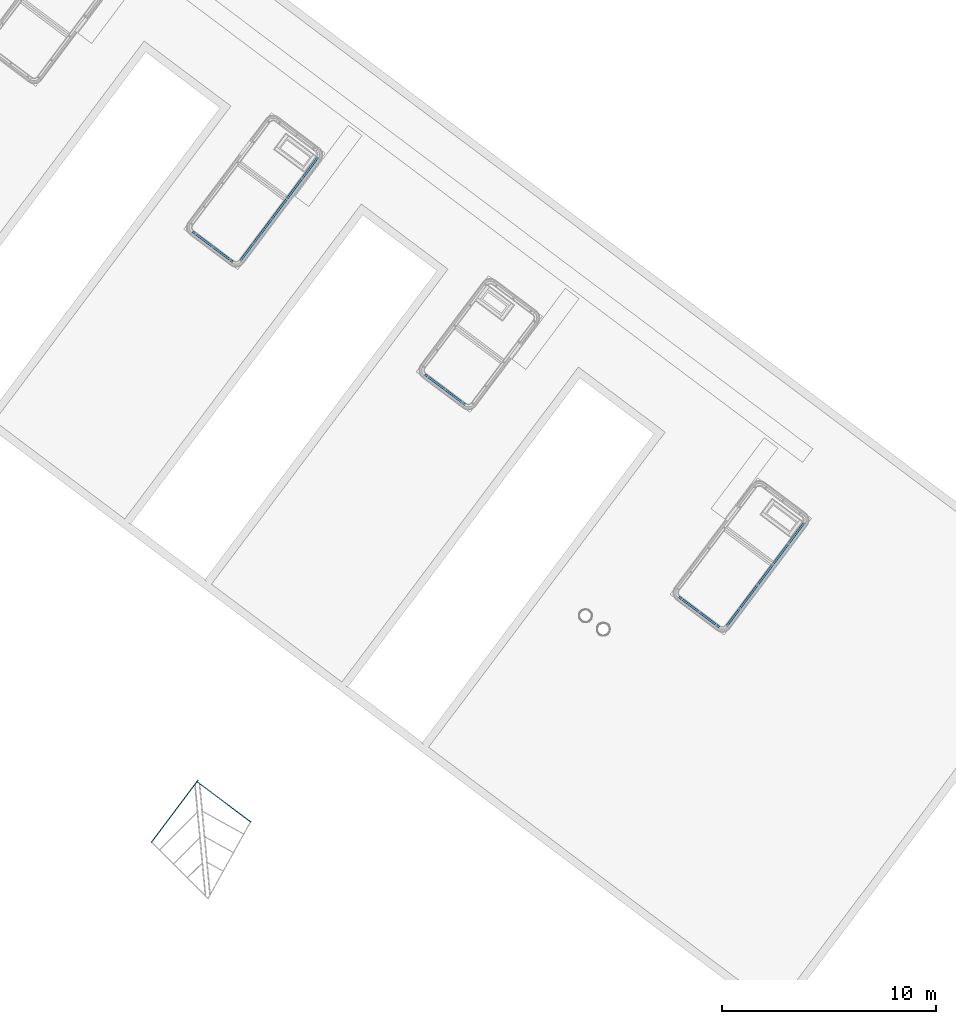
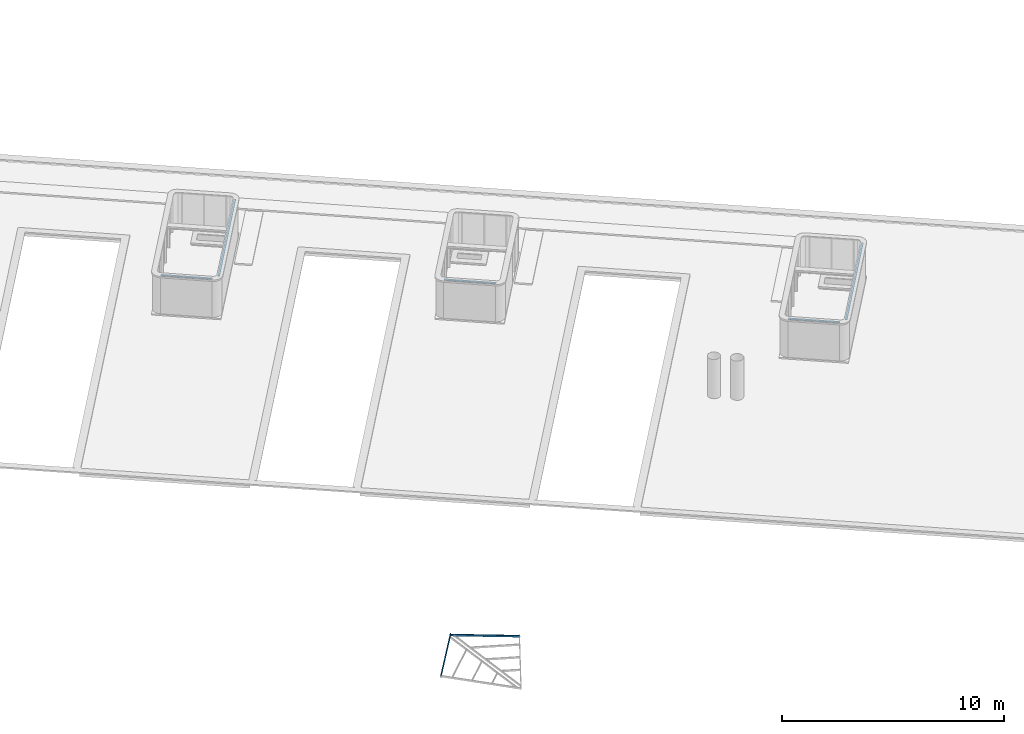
# One storey, part 14 of 28: 7 beams.
"""IFC2X3 building model written with IfcOpenShell, lengths in metres."""

from ifc_helpers import new_model, entity, si_unit, converted_unit, derived_unit, direction, frame, frame_2d, origin, place, context, subcontext, project, spatial, polyline, circle_curve, parameter, trimmed, segment, composite_curve, outline, extrude, material, type_object, element, save


model = new_model("IFC2X3")

# Units and contexts
model_context = context("Model", 3, precision=1e-05, world=origin(), true_north=direction((6.123031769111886e-17, 1.0)))
body_context = subcontext(model_context, "Body", "Model", "MODEL_VIEW")
ifc_project = project(units=[si_unit("LENGTHUNIT", "METRE"), si_unit("AREAUNIT", "SQUARE_METRE"), si_unit("VOLUMEUNIT", "CUBIC_METRE"), converted_unit("PLANEANGLEUNIT", "DEGREE", entity("IfcRatioMeasure", 0.017453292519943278), si_unit("PLANEANGLEUNIT", "RADIAN"), dimensions=[0, 0, 0, 0, 0, 0, 0]), si_unit("MASSUNIT", "GRAM", prefix="KILO"), derived_unit("MASSDENSITYUNIT", [(si_unit("MASSUNIT", "GRAM", prefix="KILO"), 1), (si_unit("LENGTHUNIT", "METRE"), -3)]), derived_unit("IONCONCENTRATIONUNIT", [(si_unit("MASSUNIT", "GRAM", prefix="KILO"), 1), (si_unit("LENGTHUNIT", "METRE"), -3)]), derived_unit("MOMENTOFINERTIAUNIT", [(si_unit("LENGTHUNIT", "METRE"), 4)]), si_unit("TIMEUNIT", "SECOND"), si_unit("FREQUENCYUNIT", "HERTZ"), si_unit("THERMODYNAMICTEMPERATUREUNIT", "DEGREE_CELSIUS"), derived_unit("THERMALTRANSMITTANCEUNIT", [(si_unit("MASSUNIT", "GRAM", prefix="KILO"), 1), (si_unit("THERMODYNAMICTEMPERATUREUNIT", "KELVIN"), -1), (si_unit("TIMEUNIT", "SECOND"), -3)]), derived_unit("THERMALCONDUCTANCEUNIT", [(si_unit("MASSUNIT", "GRAM", prefix="KILO"), 1), (si_unit("THERMODYNAMICTEMPERATUREUNIT", "KELVIN"), -1), (si_unit("TIMEUNIT", "SECOND"), -3), (si_unit("LENGTHUNIT", "METRE"), 1)]), derived_unit("VOLUMETRICFLOWRATEUNIT", [(si_unit("LENGTHUNIT", "METRE"), 3), (si_unit("TIMEUNIT", "SECOND"), -1)]), derived_unit("MASSFLOWRATEUNIT", [(si_unit("MASSUNIT", "GRAM", prefix="KILO"), 1), (si_unit("TIMEUNIT", "SECOND"), -1)]), derived_unit("ROTATIONALFREQUENCYUNIT", [(si_unit("TIMEUNIT", "SECOND"), -1)]), si_unit("ELECTRICCURRENTUNIT", "AMPERE"), si_unit("ELECTRICVOLTAGEUNIT", "VOLT"), si_unit("POWERUNIT", "WATT"), si_unit("FORCEUNIT", "NEWTON", prefix="KILO"), si_unit("ILLUMINANCEUNIT", "LUX"), si_unit("LUMINOUSFLUXUNIT", "LUMEN"), si_unit("LUMINOUSINTENSITYUNIT", "CANDELA"), derived_unit("USERDEFINED", [(si_unit("MASSUNIT", "GRAM", prefix="KILO"), -1), (si_unit("LENGTHUNIT", "METRE"), -2), (si_unit("TIMEUNIT", "SECOND"), 3), (si_unit("LUMINOUSFLUXUNIT", "LUMEN"), 1)]), derived_unit("USERDEFINED", [(si_unit("MASSUNIT", "GRAM", prefix="KILO"), 1), (si_unit("TIMEUNIT", "SECOND"), -3), (si_unit("LENGTHUNIT", "METRE"), 3), (si_unit("ELECTRICCURRENTUNIT", "AMPERE"), -2)]), derived_unit("SOUNDPOWERUNIT", [(si_unit("MASSUNIT", "GRAM", prefix="KILO"), 1), (si_unit("TIMEUNIT", "SECOND"), -3), (si_unit("LENGTHUNIT", "METRE"), 2)]), derived_unit("SOUNDPRESSUREUNIT", [(si_unit("MASSUNIT", "GRAM", prefix="KILO"), 1), (si_unit("LENGTHUNIT", "METRE"), -1), (si_unit("TIMEUNIT", "SECOND"), -2)]), derived_unit("LINEARVELOCITYUNIT", [(si_unit("LENGTHUNIT", "METRE"), 1), (si_unit("TIMEUNIT", "SECOND"), -1)]), si_unit("PRESSUREUNIT", "PASCAL"), derived_unit("USERDEFINED", [(si_unit("MASSUNIT", "GRAM", prefix="KILO"), 1), (si_unit("LENGTHUNIT", "METRE"), -2), (si_unit("TIMEUNIT", "SECOND"), -2)]), derived_unit("LINEARFORCEUNIT", [(si_unit("MASSUNIT", "GRAM", prefix="KILO"), 1), (si_unit("TIMEUNIT", "SECOND"), -2)]), derived_unit("PLANARFORCEUNIT", [(si_unit("MASSUNIT", "GRAM", prefix="KILO"), 1), (si_unit("LENGTHUNIT", "METRE"), -1), (si_unit("TIMEUNIT", "SECOND"), -2)]), derived_unit("SPECIFICHEATCAPACITYUNIT", [(si_unit("THERMODYNAMICTEMPERATUREUNIT", "KELVIN"), -1), (si_unit("LENGTHUNIT", "METRE"), 2), (si_unit("TIMEUNIT", "SECOND"), -2)]), derived_unit("HEATINGVALUEUNIT", [(si_unit("LENGTHUNIT", "METRE"), 2), (si_unit("TIMEUNIT", "SECOND"), -2)]), derived_unit("VAPORPERMEABILITYUNIT", [(si_unit("LENGTHUNIT", "METRE"), -1), (si_unit("TIMEUNIT", "SECOND"), 1)]), derived_unit("DYNAMICVISCOSITYUNIT", [(si_unit("MASSUNIT", "GRAM", prefix="KILO"), 1), (si_unit("TIMEUNIT", "SECOND"), -1), (si_unit("LENGTHUNIT", "METRE"), -1)]), derived_unit("THERMALEXPANSIONCOEFFICIENTUNIT", [(si_unit("THERMODYNAMICTEMPERATUREUNIT", "KELVIN"), -1)]), derived_unit("MODULUSOFELASTICITYUNIT", [(si_unit("MASSUNIT", "GRAM", prefix="KILO"), 1), (si_unit("LENGTHUNIT", "METRE"), -1), (si_unit("TIMEUNIT", "SECOND"), -2)]), derived_unit("ISOTHERMALMOISTURECAPACITYUNIT", [(si_unit("LENGTHUNIT", "METRE"), 3), (si_unit("MASSUNIT", "GRAM", prefix="KILO"), -1)]), derived_unit("MOISTUREDIFFUSIVITYUNIT", [(si_unit("TIMEUNIT", "SECOND"), -1), (si_unit("LENGTHUNIT", "METRE"), 2)])], contexts=[model_context])

# Site, building, storey
site_placement = place(None, frame((0.0, 0.0, 235.0), z_axis=(0.0, 0.0, 1.0), x_axis=(-0.7996477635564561, 0.6004693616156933, 0.0)))
site = spatial("IfcSite", under=ifc_project, at=site_placement, Name="Default", CompositionType="ELEMENT")
building_placement = place(site_placement, origin())
building = spatial("IfcBuilding", under=site, at=building_placement, CompositionType="ELEMENT")
storey_placement = place(building_placement, frame((0.0, 0.0, 3.400000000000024)))
storey = spatial("IfcBuildingStorey", under=building, at=storey_placement, Name="PC- Coberta STR", CompositionType="ELEMENT", Elevation=3.400000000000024)

# Beams
ifc_material = material(Name="Metal - Acero - 345 MPa")
beam_type = type_object("IfcBeamType", Name="STR- V- Acer- RHS- Rectangular- T1:100x50RHS", PredefinedType="NOTDEFINED")
beam_1_placement = place(storey_placement, frame((15.80845081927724, -37.30919173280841, 2.398404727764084), z_axis=(0.0, 0.0, 1.0), x_axis=(0.0, 1.0, 0.0)))
element("IfcBeam", 1, at=beam_1_placement, inside=storey, type_object=beam_type, material=ifc_material, Name="STR- V- Acer- RHS- Rectangular- T1:100x50RHS", ObjectType="STR- V- Acer- RHS- Rectangular- T1:100x50RHS", context=body_context, shape_type="SweptSolid", body=[
    extrude(outline(composite_curve([segment(polyline([(-0.04400000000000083, -0.02499999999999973), (0.043999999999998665, -0.02499999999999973)]), True, "CONTINUOUS"), segment(trimmed(circle_curve(frame_2d((0.043999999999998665, -0.01900000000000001), x_axis=(0.0, 1.0)), 0.006), [parameter(179.99999999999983)], [parameter(269.9999999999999)], True, "PARAMETER"), True, "CONTINUOUS"), segment(polyline([(0.04999999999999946, -0.01900000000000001), (0.04999999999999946, 0.019000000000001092)]), True, "CONTINUOUS"), segment(trimmed(circle_curve(frame_2d((0.043999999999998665, 0.01900000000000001), x_axis=(0.0, 1.0)), 0.006), [parameter(270.0000000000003)], [parameter(4.0711099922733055e-13)], True, "PARAMETER"), True, "CONTINUOUS"), segment(polyline([(0.043999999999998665, 0.025000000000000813), (-0.04400000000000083, 0.025000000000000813)]), True, "CONTINUOUS"), segment(trimmed(circle_curve(frame_2d((-0.04400000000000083, 0.01900000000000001), x_axis=(0.0, 1.0)), 0.006), [parameter(359.9999999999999)], [parameter(90.00000000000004)], True, "PARAMETER"), True, "CONTINUOUS"), segment(polyline([(-0.05000000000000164, 0.019000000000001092), (-0.05000000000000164, -0.018999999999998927)]), True, "CONTINUOUS"), segment(trimmed(circle_curve(frame_2d((-0.04400000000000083, -0.01900000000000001), x_axis=(0.0, 1.0)), 0.006), [parameter(90.00000000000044)], [parameter(179.9999999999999)], True, "PARAMETER"), True, "CONTINUOUS")], self_intersect=False), holes=[composite_curve([segment(trimmed(circle_curve(frame_2d((-0.04400000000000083, 0.01900000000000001), x_axis=(0.0, 1.0)), 0.003), [parameter(359.9999999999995)], [parameter(89.99999999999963)], True, "PARAMETER"), False, "CONTINUOUS"), segment(polyline([(-0.04400000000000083, 0.022000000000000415), (0.043999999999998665, 0.022000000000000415)]), True, "CONTINUOUS"), segment(trimmed(circle_curve(frame_2d((0.043999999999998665, 0.01900000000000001), x_axis=(0.0, 1.0)), 0.003), [parameter(269.9999999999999)], [parameter(0.0)], True, "PARAMETER"), False, "CONTINUOUS"), segment(polyline([(0.04699999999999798, 0.01900000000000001), (0.04699999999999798, -0.018999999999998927)]), True, "CONTINUOUS"), segment(trimmed(circle_curve(frame_2d((0.043999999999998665, -0.018999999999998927), x_axis=(0.0, 1.0)), 0.003), [parameter(179.9999999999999)], [parameter(269.99999999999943)], True, "PARAMETER"), False, "CONTINUOUS"), segment(polyline([(0.043999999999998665, -0.02199999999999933), (-0.04400000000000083, -0.02199999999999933)]), True, "CONTINUOUS"), segment(trimmed(circle_curve(frame_2d((-0.04400000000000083, -0.018999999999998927), x_axis=(0.0, 1.0)), 0.003), [parameter(90.00000000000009)], [parameter(180.00000000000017)], True, "PARAMETER"), False, "CONTINUOUS"), segment(polyline([(-0.04700000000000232, -0.018999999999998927), (-0.04700000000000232, 0.019000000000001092)]), True, "CONTINUOUS")], self_intersect=False)]), frame((0.0, -0.05159527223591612, 0.02659527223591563), z_axis=(1.0, 0.0, 0.0), x_axis=(0.0, 1.0, 0.0)), (0.0, 0.0, 1.0), 6.036931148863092),
])
beam_2_placement = place(storey_placement, frame((16.11005592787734, -31.08085588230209, 2.4515952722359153), z_axis=(0.0, 0.0, 1.0), x_axis=(-1.0, 0.0, 0.0)))
element("IfcBeam", 2, at=beam_2_placement, inside=storey, type_object=beam_type, material=ifc_material, Name="STR- V- Acer- RHS- Rectangular- T1:100x50RHS", ObjectType="STR- V- Acer- RHS- Rectangular- T1:100x50RHS", context=body_context, shape_type="SweptSolid", body=[
    extrude(outline(composite_curve([segment(polyline([(-0.04400000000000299, -0.02499999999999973), (0.04399999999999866, -0.02499999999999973)]), True, "CONTINUOUS"), segment(trimmed(circle_curve(frame_2d((0.04399999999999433, -0.01900000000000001), x_axis=(0.0, 1.0)), 0.006), [parameter(179.99999999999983)], [parameter(269.9999999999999)], True, "PARAMETER"), True, "CONTINUOUS"), segment(polyline([(0.0499999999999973, -0.01900000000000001), (0.0499999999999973, 0.019000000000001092)]), True, "CONTINUOUS"), segment(trimmed(circle_curve(frame_2d((0.04399999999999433, 0.01900000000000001), x_axis=(0.0, 1.0)), 0.006), [parameter(270.0000000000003)], [parameter(4.0711099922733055e-13)], True, "PARAMETER"), True, "CONTINUOUS"), segment(polyline([(0.04399999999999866, 0.025000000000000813), (-0.04400000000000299, 0.025000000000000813)]), True, "CONTINUOUS"), segment(trimmed(circle_curve(frame_2d((-0.04400000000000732, 0.01900000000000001), x_axis=(0.0, 1.0)), 0.006), [parameter(359.9999999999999)], [parameter(90.00000000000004)], True, "PARAMETER"), True, "CONTINUOUS"), segment(polyline([(-0.05000000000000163, 0.019000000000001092), (-0.05000000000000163, -0.018999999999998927)]), True, "CONTINUOUS"), segment(trimmed(circle_curve(frame_2d((-0.04400000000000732, -0.01900000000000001), x_axis=(0.0, 1.0)), 0.006), [parameter(90.00000000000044)], [parameter(179.9999999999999)], True, "PARAMETER"), True, "CONTINUOUS")], self_intersect=False), holes=[composite_curve([segment(trimmed(circle_curve(frame_2d((-0.04400000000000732, 0.01900000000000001), x_axis=(0.0, 1.0)), 0.003), [parameter(359.9999999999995)], [parameter(89.99999999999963)], True, "PARAMETER"), False, "CONTINUOUS"), segment(polyline([(-0.04400000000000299, 0.02200000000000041), (0.04399999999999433, 0.02200000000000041)]), True, "CONTINUOUS"), segment(trimmed(circle_curve(frame_2d((0.04399999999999, 0.01900000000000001), x_axis=(0.0, 1.0)), 0.003), [parameter(269.9999999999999)], [parameter(0.0)], True, "PARAMETER"), False, "CONTINUOUS"), segment(polyline([(0.04699999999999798, 0.01900000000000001), (0.04699999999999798, -0.018999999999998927)]), True, "CONTINUOUS"), segment(trimmed(circle_curve(frame_2d((0.04399999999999, -0.018999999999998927), x_axis=(0.0, 1.0)), 0.003), [parameter(179.9999999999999)], [parameter(269.99999999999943)], True, "PARAMETER"), False, "CONTINUOUS"), segment(polyline([(0.04399999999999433, -0.021999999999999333), (-0.04400000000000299, -0.021999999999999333)]), True, "CONTINUOUS"), segment(trimmed(circle_curve(frame_2d((-0.04400000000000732, -0.018999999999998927), x_axis=(0.0, 1.0)), 0.003), [parameter(90.00000000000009)], [parameter(180.00000000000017)], True, "PARAMETER"), False, "CONTINUOUS"), segment(polyline([(-0.04700000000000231, -0.018999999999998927), (-0.04700000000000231, 0.019000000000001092)]), True, "CONTINUOUS")], self_intersect=False)]), frame((-2.349886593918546, -0.051595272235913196, -0.026595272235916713), z_axis=(1.0, 0.0, 0.0), x_axis=(0.0, 1.0, 0.0)), (0.0, 0.0, 1.0), 2.3498865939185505),
])
beam_3_placement = place(storey_placement, frame((31.843204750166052, -32.266787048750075, 2.4515952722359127), z_axis=(0.0, 0.0, 1.0), x_axis=(-1.0, 0.0, 0.0)))
element("IfcBeam", 3, at=beam_3_placement, inside=storey, type_object=beam_type, material=ifc_material, Name="STR- V- Acer- RHS- Rectangular- T1:100x50RHS", ObjectType="STR- V- Acer- RHS- Rectangular- T1:100x50RHS", context=body_context, shape_type="SweptSolid", body=[
    extrude(outline(composite_curve([segment(polyline([(-0.04399999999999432, -0.025000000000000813), (0.044000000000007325, -0.025000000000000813)]), True, "CONTINUOUS"), segment(trimmed(circle_curve(frame_2d((0.044000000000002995, -0.019000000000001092), x_axis=(0.0, 1.0)), 0.006), [parameter(179.99999999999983)], [parameter(269.9999999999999)], True, "PARAMETER"), True, "CONTINUOUS"), segment(polyline([(0.05000000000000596, -0.019000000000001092), (0.05000000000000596, 0.01900000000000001)]), True, "CONTINUOUS"), segment(trimmed(circle_curve(frame_2d((0.044000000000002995, 0.018999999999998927), x_axis=(0.0, 1.0)), 0.006), [parameter(270.0000000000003)], [parameter(4.0711099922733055e-13)], True, "PARAMETER"), True, "CONTINUOUS"), segment(polyline([(0.044000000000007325, 0.02499999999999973), (-0.04399999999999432, 0.02499999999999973)]), True, "CONTINUOUS"), segment(trimmed(circle_curve(frame_2d((-0.04399999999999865, 0.018999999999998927), x_axis=(0.0, 1.0)), 0.006), [parameter(359.9999999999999)], [parameter(90.00000000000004)], True, "PARAMETER"), True, "CONTINUOUS"), segment(polyline([(-0.04999999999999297, 0.01900000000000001), (-0.04999999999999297, -0.01900000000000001)]), True, "CONTINUOUS"), segment(trimmed(circle_curve(frame_2d((-0.04399999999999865, -0.019000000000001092), x_axis=(0.0, 1.0)), 0.006), [parameter(90.00000000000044)], [parameter(179.9999999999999)], True, "PARAMETER"), True, "CONTINUOUS")], self_intersect=False), holes=[composite_curve([segment(trimmed(circle_curve(frame_2d((-0.04399999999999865, 0.018999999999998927), x_axis=(0.0, 1.0)), 0.003), [parameter(359.9999999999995)], [parameter(89.99999999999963)], True, "PARAMETER"), False, "CONTINUOUS"), segment(polyline([(-0.04399999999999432, 0.02199999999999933), (0.044000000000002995, 0.02199999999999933)]), True, "CONTINUOUS"), segment(trimmed(circle_curve(frame_2d((0.043999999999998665, 0.018999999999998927), x_axis=(0.0, 1.0)), 0.003), [parameter(269.9999999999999)], [parameter(0.0)], True, "PARAMETER"), False, "CONTINUOUS"), segment(polyline([(0.04700000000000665, 0.018999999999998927), (0.04700000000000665, -0.01900000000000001)]), True, "CONTINUOUS"), segment(trimmed(circle_curve(frame_2d((0.043999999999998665, -0.01900000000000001), x_axis=(0.0, 1.0)), 0.003), [parameter(179.9999999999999)], [parameter(269.99999999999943)], True, "PARAMETER"), False, "CONTINUOUS"), segment(polyline([(0.044000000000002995, -0.022000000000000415), (-0.04399999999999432, -0.022000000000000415)]), True, "CONTINUOUS"), segment(trimmed(circle_curve(frame_2d((-0.04399999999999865, -0.01900000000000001), x_axis=(0.0, 1.0)), 0.003), [parameter(90.00000000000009)], [parameter(180.00000000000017)], True, "PARAMETER"), False, "CONTINUOUS"), segment(polyline([(-0.046999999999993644, -0.01900000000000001), (-0.046999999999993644, 0.01900000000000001)]), True, "CONTINUOUS")], self_intersect=False)]), frame((-2.36688688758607, -0.05159527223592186, -0.02659527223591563), z_axis=(1.0, 0.0, 0.0), x_axis=(0.0, 1.0, 0.0)), (0.0, 0.0, 1.0), 2.366886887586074),
])
beam_4_placement = place(storey_placement, frame((44.25845081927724, -37.309191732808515, 2.398404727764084), z_axis=(0.0, 0.0, 1.0), x_axis=(0.0, 1.0, 0.0)))
element("IfcBeam", 4, at=beam_4_placement, inside=storey, type_object=beam_type, material=ifc_material, Name="STR- V- Acer- RHS- Rectangular- T1:100x50RHS", ObjectType="STR- V- Acer- RHS- Rectangular- T1:100x50RHS", context=body_context, shape_type="SweptSolid", body=[
    extrude(outline(composite_curve([segment(polyline([(-0.043999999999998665, -0.02499999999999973), (0.044000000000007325, -0.02499999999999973)]), True, "CONTINUOUS"), segment(trimmed(circle_curve(frame_2d((0.04399999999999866, -0.01900000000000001), x_axis=(0.0, 1.0)), 0.006), [parameter(179.99999999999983)], [parameter(269.9999999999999)], True, "PARAMETER"), True, "CONTINUOUS"), segment(polyline([(0.050000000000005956, -0.01900000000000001), (0.050000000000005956, 0.019000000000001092)]), True, "CONTINUOUS"), segment(trimmed(circle_curve(frame_2d((0.04399999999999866, 0.01900000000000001), x_axis=(0.0, 1.0)), 0.006), [parameter(270.0000000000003)], [parameter(4.0711099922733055e-13)], True, "PARAMETER"), True, "CONTINUOUS"), segment(polyline([(0.044000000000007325, 0.025000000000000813), (-0.043999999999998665, 0.025000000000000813)]), True, "CONTINUOUS"), segment(trimmed(circle_curve(frame_2d((-0.044000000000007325, 0.01900000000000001), x_axis=(0.0, 1.0)), 0.006), [parameter(359.9999999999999)], [parameter(90.00000000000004)], True, "PARAMETER"), True, "CONTINUOUS"), segment(polyline([(-0.04999999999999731, 0.019000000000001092), (-0.04999999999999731, -0.018999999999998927)]), True, "CONTINUOUS"), segment(trimmed(circle_curve(frame_2d((-0.044000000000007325, -0.01900000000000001), x_axis=(0.0, 1.0)), 0.006), [parameter(90.00000000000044)], [parameter(179.9999999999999)], True, "PARAMETER"), True, "CONTINUOUS")], self_intersect=False), holes=[composite_curve([segment(trimmed(circle_curve(frame_2d((-0.044000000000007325, 0.01900000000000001), x_axis=(0.0, 1.0)), 0.003), [parameter(359.9999999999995)], [parameter(89.99999999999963)], True, "PARAMETER"), False, "CONTINUOUS"), segment(polyline([(-0.043999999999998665, 0.022000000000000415), (0.044000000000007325, 0.022000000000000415)]), True, "CONTINUOUS"), segment(trimmed(circle_curve(frame_2d((0.04399999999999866, 0.01900000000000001), x_axis=(0.0, 1.0)), 0.003), [parameter(269.9999999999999)], [parameter(0.0)], True, "PARAMETER"), False, "CONTINUOUS"), segment(polyline([(0.04700000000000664, 0.01900000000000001), (0.04700000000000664, -0.018999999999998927)]), True, "CONTINUOUS"), segment(trimmed(circle_curve(frame_2d((0.04399999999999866, -0.018999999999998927), x_axis=(0.0, 1.0)), 0.003), [parameter(179.9999999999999)], [parameter(269.99999999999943)], True, "PARAMETER"), False, "CONTINUOUS"), segment(polyline([(0.044000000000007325, -0.02199999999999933), (-0.043999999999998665, -0.02199999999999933)]), True, "CONTINUOUS"), segment(trimmed(circle_curve(frame_2d((-0.044000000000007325, -0.018999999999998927), x_axis=(0.0, 1.0)), 0.003), [parameter(90.00000000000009)], [parameter(180.00000000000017)], True, "PARAMETER"), False, "CONTINUOUS"), segment(polyline([(-0.04699999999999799, -0.018999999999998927), (-0.04699999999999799, 0.019000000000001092)]), True, "CONTINUOUS")], self_intersect=False)]), frame((0.0, -0.05159527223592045, 0.02659527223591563), z_axis=(1.0, 0.0, 0.0), x_axis=(0.0, 1.0, 0.0)), (0.0, 0.0, 1.0), 6.036931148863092),
])
beam_5_placement = place(storey_placement, frame((44.56005592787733, -31.08085588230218, 2.4515952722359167), z_axis=(0.0, 0.0, 1.0), x_axis=(-1.0, 0.0, 0.0)))
element("IfcBeam", 5, at=beam_5_placement, inside=storey, type_object=beam_type, material=ifc_material, Name="STR- V- Acer- RHS- Rectangular- T1:100x50RHS", ObjectType="STR- V- Acer- RHS- Rectangular- T1:100x50RHS", context=body_context, shape_type="SweptSolid", body=[
    extrude(outline(composite_curve([segment(polyline([(-0.04399999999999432, -0.02499999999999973), (0.044000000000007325, -0.02499999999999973)]), True, "CONTINUOUS"), segment(trimmed(circle_curve(frame_2d((0.044000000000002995, -0.01900000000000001), x_axis=(0.0, 1.0)), 0.006), [parameter(179.99999999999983)], [parameter(269.9999999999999)], True, "PARAMETER"), True, "CONTINUOUS"), segment(polyline([(0.05000000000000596, -0.01900000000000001), (0.05000000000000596, 0.019000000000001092)]), True, "CONTINUOUS"), segment(trimmed(circle_curve(frame_2d((0.044000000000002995, 0.01900000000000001), x_axis=(0.0, 1.0)), 0.006), [parameter(270.0000000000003)], [parameter(4.0711099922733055e-13)], True, "PARAMETER"), True, "CONTINUOUS"), segment(polyline([(0.044000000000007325, 0.025000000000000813), (-0.04399999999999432, 0.025000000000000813)]), True, "CONTINUOUS"), segment(trimmed(circle_curve(frame_2d((-0.043999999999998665, 0.01900000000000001), x_axis=(0.0, 1.0)), 0.006), [parameter(359.9999999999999)], [parameter(90.00000000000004)], True, "PARAMETER"), True, "CONTINUOUS"), segment(polyline([(-0.04999999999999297, 0.019000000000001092), (-0.04999999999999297, -0.018999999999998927)]), True, "CONTINUOUS"), segment(trimmed(circle_curve(frame_2d((-0.043999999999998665, -0.01900000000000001), x_axis=(0.0, 1.0)), 0.006), [parameter(90.00000000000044)], [parameter(179.9999999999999)], True, "PARAMETER"), True, "CONTINUOUS")], self_intersect=False), holes=[composite_curve([segment(trimmed(circle_curve(frame_2d((-0.043999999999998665, 0.01900000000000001), x_axis=(0.0, 1.0)), 0.003), [parameter(359.9999999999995)], [parameter(89.99999999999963)], True, "PARAMETER"), False, "CONTINUOUS"), segment(polyline([(-0.04399999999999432, 0.02200000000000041), (0.044000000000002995, 0.02200000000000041)]), True, "CONTINUOUS"), segment(trimmed(circle_curve(frame_2d((0.043999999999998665, 0.01900000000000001), x_axis=(0.0, 1.0)), 0.003), [parameter(269.9999999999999)], [parameter(0.0)], True, "PARAMETER"), False, "CONTINUOUS"), segment(polyline([(0.04700000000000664, 0.01900000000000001), (0.04700000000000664, -0.018999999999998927)]), True, "CONTINUOUS"), segment(trimmed(circle_curve(frame_2d((0.043999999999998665, -0.018999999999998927), x_axis=(0.0, 1.0)), 0.003), [parameter(179.9999999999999)], [parameter(269.99999999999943)], True, "PARAMETER"), False, "CONTINUOUS"), segment(polyline([(0.044000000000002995, -0.021999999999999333), (-0.04399999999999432, -0.021999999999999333)]), True, "CONTINUOUS"), segment(trimmed(circle_curve(frame_2d((-0.043999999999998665, -0.018999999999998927), x_axis=(0.0, 1.0)), 0.003), [parameter(90.00000000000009)], [parameter(180.00000000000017)], True, "PARAMETER"), False, "CONTINUOUS"), segment(polyline([(-0.046999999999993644, -0.018999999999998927), (-0.046999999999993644, 0.019000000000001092)]), True, "CONTINUOUS")], self_intersect=False)]), frame((-2.3498865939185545, -0.05159527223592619, -0.026595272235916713), z_axis=(1.0, 0.0, 0.0), x_axis=(0.0, 1.0, 0.0)), (0.0, 0.0, 1.0), 2.3498865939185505),
])
beam_6_placement = place(storey_placement, frame((28.133810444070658, -10.611524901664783, -1.576558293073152), z_axis=(0.06371375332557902, 0.0, 0.9979682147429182), x_axis=(0.9979682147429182, 0.0, -0.06371375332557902)))
element("IfcBeam", 6, at=beam_6_placement, inside=storey, type_object=beam_type, material=ifc_material, Name="STR- V- Acer- RHS- Rectangular- T1:100x50RHS", ObjectType="STR- V- Acer- RHS- Rectangular- T1:100x50RHS", context=body_context, shape_type="SweptSolid", body=[
    extrude(outline(composite_curve([segment(trimmed(circle_curve(frame_2d((-0.018999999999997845, -0.04400000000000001), x_axis=(1.0, 0.0)), 0.006), [parameter(180.0000000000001)], [parameter(269.99999999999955)], True, "PARAMETER"), True, "CONTINUOUS"), segment(polyline([(-0.019000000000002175, -0.04999999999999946), (0.01899999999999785, -0.04999999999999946)]), True, "CONTINUOUS"), segment(trimmed(circle_curve(frame_2d((0.01900000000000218, -0.04400000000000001), x_axis=(1.0, 0.0)), 0.006), [parameter(269.99999999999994)], [parameter(1.0177774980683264e-13)], True, "PARAMETER"), True, "CONTINUOUS"), segment(polyline([(0.02499999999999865, -0.04399999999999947), (0.02499999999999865, 0.04400000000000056)]), True, "CONTINUOUS"), segment(trimmed(circle_curve(frame_2d((0.01900000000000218, 0.04400000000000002), x_axis=(1.0, 0.0)), 0.006), [parameter(359.9999999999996)], [parameter(89.99999999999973)], True, "PARAMETER"), True, "CONTINUOUS"), segment(polyline([(0.01899999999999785, 0.05000000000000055), (-0.019000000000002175, 0.05000000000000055)]), True, "CONTINUOUS"), segment(trimmed(circle_curve(frame_2d((-0.018999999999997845, 0.04400000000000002), x_axis=(1.0, 0.0)), 0.006), [parameter(90.00000000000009)], [parameter(180.00000000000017)], True, "PARAMETER"), True, "CONTINUOUS"), segment(polyline([(-0.025000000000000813, 0.04400000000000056), (-0.025000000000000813, -0.04399999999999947)]), True, "CONTINUOUS")], self_intersect=False), holes=[composite_curve([segment(polyline([(0.01899999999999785, -0.046999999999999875), (-0.019000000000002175, -0.046999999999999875)]), True, "CONTINUOUS"), segment(trimmed(circle_curve(frame_2d((-0.018999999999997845, -0.04400000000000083), x_axis=(1.0, 0.0)), 0.003), [parameter(179.99999999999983)], [parameter(269.9999999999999)], True, "PARAMETER"), False, "CONTINUOUS"), segment(polyline([(-0.022000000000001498, -0.04400000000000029), (-0.022000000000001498, 0.04399999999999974)]), True, "CONTINUOUS"), segment(trimmed(circle_curve(frame_2d((-0.018999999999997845, 0.0439999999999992), x_axis=(1.0, 0.0)), 0.003), [parameter(90.00000000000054)], [parameter(180.0000000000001)], True, "PARAMETER"), False, "CONTINUOUS"), segment(polyline([(-0.019000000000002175, 0.04699999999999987), (0.01899999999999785, 0.04699999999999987)]), True, "CONTINUOUS"), segment(trimmed(circle_curve(frame_2d((0.01900000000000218, 0.0439999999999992), x_axis=(1.0, 0.0)), 0.003), [parameter(0.0)], [parameter(90.00000000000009)], True, "PARAMETER"), False, "CONTINUOUS"), segment(polyline([(0.021999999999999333, 0.04399999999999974), (0.021999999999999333, -0.04400000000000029)]), True, "CONTINUOUS"), segment(trimmed(circle_curve(frame_2d((0.01900000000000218, -0.04400000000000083), x_axis=(1.0, 0.0)), 0.003), [parameter(270.00000000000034)], [parameter(5.088887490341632e-13)], True, "PARAMETER"), False, "CONTINUOUS")], self_intersect=False)]), frame((0.008052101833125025, 0.02659527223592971, -0.05108444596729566), z_axis=(1.0, 0.0, 0.0), x_axis=(0.0, -1.0, 0.0)), (0.0, 0.0, 1.0), 3.2000000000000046),
])
beam_7_placement = place(storey_placement, frame((31.27676492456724, -10.685238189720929, -1.8870285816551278), z_axis=(0.0, -0.05657297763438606, 0.9983984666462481), x_axis=(0.0, -0.9983984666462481, -0.05657297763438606)))
element("IfcBeam", 7, at=beam_7_placement, inside=storey, type_object=beam_type, material=ifc_material, Name="STR- V- Acer- RHS- Rectangular- T1:100x50RHS", ObjectType="STR- V- Acer- RHS- Rectangular- T1:100x50RHS", context=body_context, shape_type="SweptSolid", body=[
    extrude(outline(composite_curve([segment(trimmed(circle_curve(frame_2d((-0.019000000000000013, -0.04399999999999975), x_axis=(1.0, 0.0)), 0.006), [parameter(180.0000000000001)], [parameter(269.99999999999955)], True, "PARAMETER"), True, "CONTINUOUS"), segment(polyline([(-0.019000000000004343, -0.05), (0.01899999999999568, -0.05)]), True, "CONTINUOUS"), segment(trimmed(circle_curve(frame_2d((0.019000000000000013, -0.04399999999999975), x_axis=(1.0, 0.0)), 0.006), [parameter(269.99999999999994)], [parameter(1.0177774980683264e-13)], True, "PARAMETER"), True, "CONTINUOUS"), segment(polyline([(0.02499999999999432, -0.04399999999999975), (0.024999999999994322, 0.04400000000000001)]), True, "CONTINUOUS"), segment(trimmed(circle_curve(frame_2d((0.01900000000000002, 0.04399999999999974), x_axis=(1.0, 0.0)), 0.006), [parameter(359.9999999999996)], [parameter(89.99999999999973)], True, "PARAMETER"), True, "CONTINUOUS"), segment(polyline([(0.018999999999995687, 0.05), (-0.019000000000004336, 0.05)]), True, "CONTINUOUS"), segment(trimmed(circle_curve(frame_2d((-0.019000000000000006, 0.04399999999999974), x_axis=(1.0, 0.0)), 0.006), [parameter(90.00000000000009)], [parameter(180.00000000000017)], True, "PARAMETER"), True, "CONTINUOUS"), segment(polyline([(-0.025000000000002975, 0.04400000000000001), (-0.02500000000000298, -0.04399999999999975)]), True, "CONTINUOUS")], self_intersect=False), holes=[composite_curve([segment(polyline([(0.01899999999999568, -0.04700000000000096), (-0.019000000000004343, -0.04700000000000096)]), True, "CONTINUOUS"), segment(trimmed(circle_curve(frame_2d((-0.019000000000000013, -0.04400000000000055), x_axis=(1.0, 0.0)), 0.003), [parameter(179.99999999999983)], [parameter(269.9999999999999)], True, "PARAMETER"), False, "CONTINUOUS"), segment(polyline([(-0.022000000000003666, -0.04400000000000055), (-0.02200000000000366, 0.0439999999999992)]), True, "CONTINUOUS"), segment(trimmed(circle_curve(frame_2d((-0.019000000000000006, 0.04399999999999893), x_axis=(1.0, 0.0)), 0.003), [parameter(90.00000000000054)], [parameter(180.0000000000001)], True, "PARAMETER"), False, "CONTINUOUS"), segment(polyline([(-0.019000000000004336, 0.046999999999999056), (0.018999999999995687, 0.046999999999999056)]), True, "CONTINUOUS"), segment(trimmed(circle_curve(frame_2d((0.01900000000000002, 0.04399999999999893), x_axis=(1.0, 0.0)), 0.003), [parameter(0.0)], [parameter(90.00000000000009)], True, "PARAMETER"), False, "CONTINUOUS"), segment(polyline([(0.021999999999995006, 0.0439999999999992), (0.021999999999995, -0.04400000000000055)]), True, "CONTINUOUS"), segment(trimmed(circle_curve(frame_2d((0.019000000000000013, -0.04400000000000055), x_axis=(1.0, 0.0)), 0.003), [parameter(270.00000000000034)], [parameter(5.088887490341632e-13)], True, "PARAMETER"), False, "CONTINUOUS")], self_intersect=False)]), frame((-3.6703312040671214, 0.026595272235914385, 0.05118241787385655), z_axis=(1.0, 0.0, 0.0), x_axis=(0.0, -1.0, 0.0)), (0.0, 0.0, 1.0), 3.662999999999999),
])

save(model, "model.ifc")
